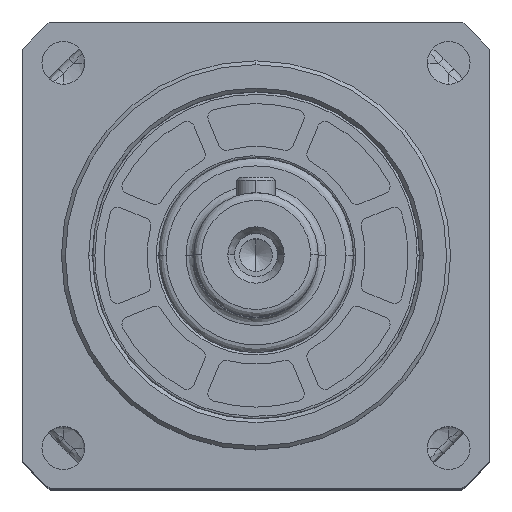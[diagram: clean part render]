
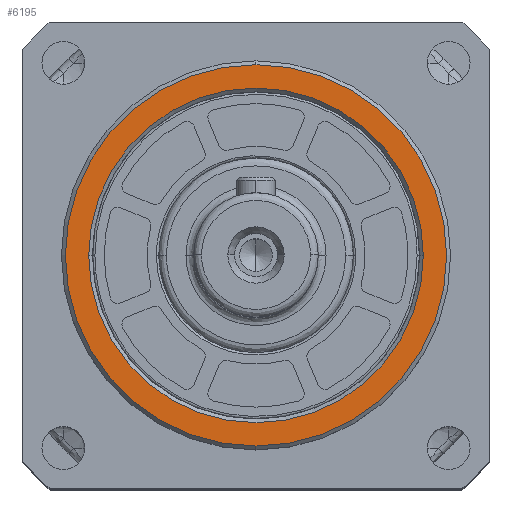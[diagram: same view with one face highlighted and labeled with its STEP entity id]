
A CAD part, top view. The second image highlights one B-rep face of the part: STEP entity #6195.
In plain terms, the highlighted planar face has unit normal (0, 0, 1).
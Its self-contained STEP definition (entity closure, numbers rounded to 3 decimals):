
#1235 = CIRCLE ( 'NONE', #7231, 24.5 ) ;
#1242 = CARTESIAN_POINT ( 'NONE',  ( 0., 0., 43. ) ) ;
#5823 = DIRECTION ( 'NONE',  ( 1., 0., 0. ) ) ;
#5927 = DIRECTION ( 'NONE',  ( 0., 0., 1. ) ) ;
#6130 = CARTESIAN_POINT ( 'NONE',  ( 0., 0., 43. ) ) ;
#6195 = ADVANCED_FACE ( 'NONE', ( #44141, #30937 ), #9558, .T. ) ;
#6213 = DIRECTION ( 'NONE',  ( 0., 1., 0. ) ) ;
#7231 = AXIS2_PLACEMENT_3D ( 'NONE', #22698, #53901, #27249 ) ;
#7431 = VERTEX_POINT ( 'NONE', #51014 ) ;
#9558 = PLANE ( 'NONE',  #36478 ) ;
#9683 = VERTEX_POINT ( 'NONE', #55211 ) ;
#10145 = DIRECTION ( 'NONE',  ( 0., 0., 1. ) ) ;
#10207 = CARTESIAN_POINT ( 'NONE',  ( -24.794, -24.794, 43. ) ) ;
#10280 = DIRECTION ( 'NONE',  ( 1., 0., 0. ) ) ;
#11476 = EDGE_LOOP ( 'NONE', ( #52475, #18545 ) ) ;
#12932 = CIRCLE ( 'NONE', #46694, 24.5 ) ;
#14179 = EDGE_LOOP ( 'NONE', ( #53921, #19676 ) ) ;
#14203 = AXIS2_PLACEMENT_3D ( 'NONE', #1242, #32994, #5823 ) ;
#15314 = CIRCLE ( 'NONE', #14203, 21.5 ) ;
#15474 = CARTESIAN_POINT ( 'NONE',  ( 0., 0., 43. ) ) ;
#16279 = CARTESIAN_POINT ( 'NONE',  ( -21.5, 0., 43. ) ) ;
#18545 = ORIENTED_EDGE ( 'NONE', *, *, #19943, .T. ) ;
#19676 = ORIENTED_EDGE ( 'NONE', *, *, #53114, .T. ) ;
#19943 = EDGE_CURVE ( 'NONE', #41433, #7431, #49408, .T. ) ;
#20027 = DIRECTION ( 'NONE',  ( 1., 0., 0. ) ) ;
#21566 = CARTESIAN_POINT ( 'NONE',  ( 0., 24.5, 43. ) ) ;
#22698 = CARTESIAN_POINT ( 'NONE',  ( 0., 0., 43. ) ) ;
#27249 = DIRECTION ( 'NONE',  ( 0., 1., 0. ) ) ;
#29115 = EDGE_CURVE ( 'NONE', #30985, #9683, #12932, .T. ) ;
#30937 = FACE_OUTER_BOUND ( 'NONE', #14179, .T. ) ;
#30985 = VERTEX_POINT ( 'NONE', #21566 ) ;
#32994 = DIRECTION ( 'NONE',  ( 0., 0., -1. ) ) ;
#36478 = AXIS2_PLACEMENT_3D ( 'NONE', #10207, #10145, #10280 ) ;
#39088 = AXIS2_PLACEMENT_3D ( 'NONE', #15474, #46940, #20027 ) ;
#41433 = VERTEX_POINT ( 'NONE', #16279 ) ;
#44141 = FACE_BOUND ( 'NONE', #11476, .T. ) ;
#46694 = AXIS2_PLACEMENT_3D ( 'NONE', #6130, #5927, #6213 ) ;
#46940 = DIRECTION ( 'NONE',  ( 0., 0., -1. ) ) ;
#49408 = CIRCLE ( 'NONE', #39088, 21.5 ) ;
#51014 = CARTESIAN_POINT ( 'NONE',  ( 21.5, 0., 43. ) ) ;
#52475 = ORIENTED_EDGE ( 'NONE', *, *, #55883, .T. ) ;
#53114 = EDGE_CURVE ( 'NONE', #9683, #30985, #1235, .T. ) ;
#53901 = DIRECTION ( 'NONE',  ( 0., 0., 1. ) ) ;
#53921 = ORIENTED_EDGE ( 'NONE', *, *, #29115, .T. ) ;
#55211 = CARTESIAN_POINT ( 'NONE',  ( 0., -24.5, 43. ) ) ;
#55883 = EDGE_CURVE ( 'NONE', #7431, #41433, #15314, .T. ) ;
